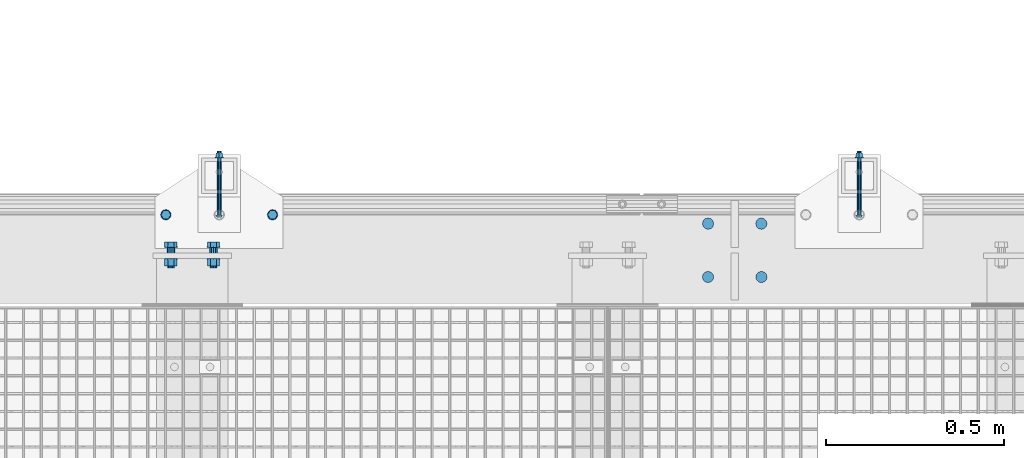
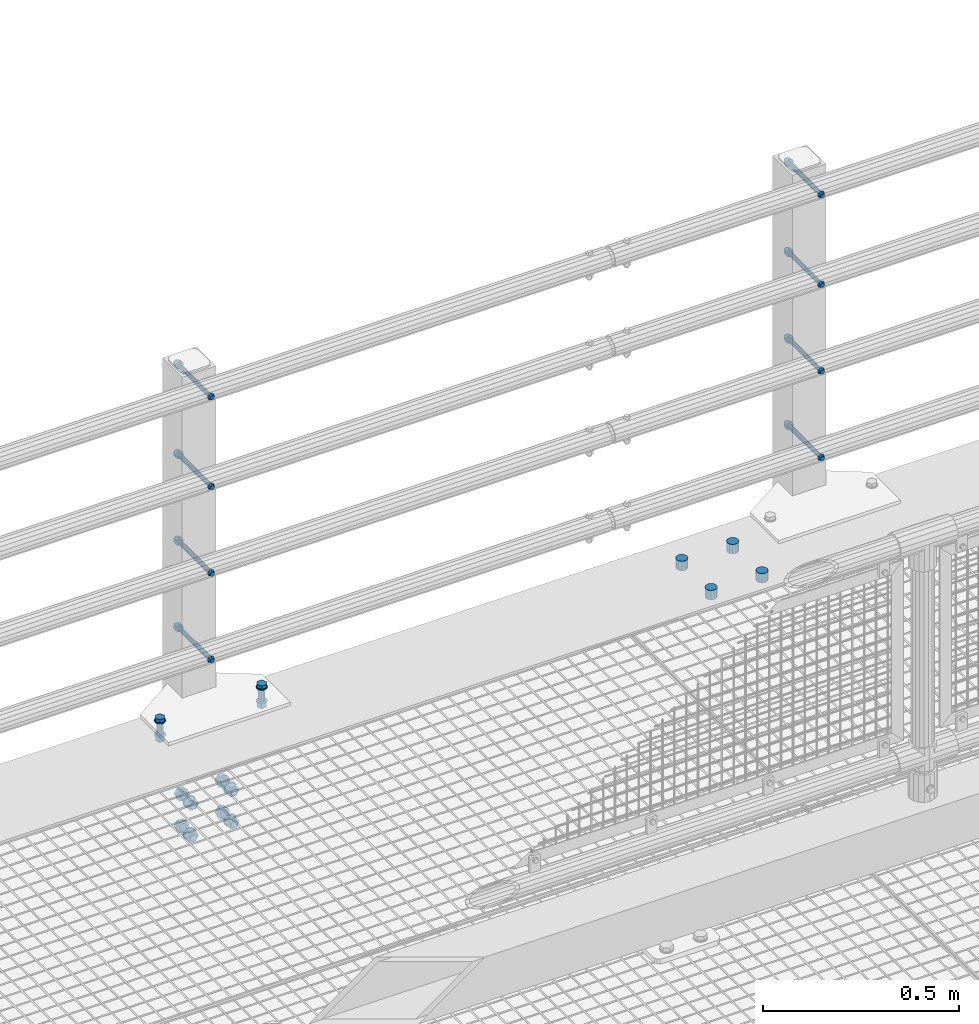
# One storey, part 39 of 1530: 11 mechanical fasteners.
"""IFC2X3 building model written with IfcOpenShell, lengths in millimetres."""

from ifc_helpers import new_model, si_unit, frame, origin_with_axes, place, context, subcontext, project, spatial, faceted_brep, source, transform, mapped, material, type_object, element, save


model = new_model("IFC2X3")

# Units and contexts
model_context = context("Model", 3, precision=1e-05, world=origin_with_axes())
body_context = subcontext(model_context, "Body", "Model", "MODEL_VIEW")
ifc_project = project(units=[si_unit("LENGTHUNIT", "METRE", prefix="MILLI"), si_unit("AREAUNIT", "SQUARE_METRE"), si_unit("VOLUMEUNIT", "CUBIC_METRE"), si_unit("MASSUNIT", "GRAM", prefix="KILO"), si_unit("TIMEUNIT", "SECOND"), si_unit("PLANEANGLEUNIT", "RADIAN"), si_unit("SOLIDANGLEUNIT", "STERADIAN"), si_unit("THERMODYNAMICTEMPERATUREUNIT", "DEGREE_CELSIUS"), si_unit("LUMINOUSINTENSITYUNIT", "LUMEN")], contexts=[model_context])

# Site, building, storey
site_placement = place(None, origin_with_axes())
site = spatial("IfcSite", under=ifc_project, at=site_placement, Name="Brattvåg", CompositionType="ELEMENT")
building_placement = place(site_placement, origin_with_axes())
building = spatial("IfcBuilding", under=site, at=building_placement, Name="Undefined", CompositionType="ELEMENT")
storey_placement = place(building_placement, origin_with_axes())
storey = spatial("IfcBuildingStorey", under=building, at=storey_placement, Name="Undefined", CompositionType="ELEMENT", Elevation=0.0)

# Mechanical fasteners
ifc_material = material(Name="8")
mechanical_fastener_type = type_object("IfcMechanicalFastenerType", Name="Bolt assembly")
shared_shape_1 = source(origin_with_axes(), body_context, "Body", "Brep", [
    faceted_brep([(16.0, 0.0, 0.0), (13.8564064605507, 0.0, 8.00000000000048), (7.99999999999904, 0.0, 13.8564064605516), (-1.65813757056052e-12, 0.0, 16.0), (-8.00000000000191, 0.0, 13.8564064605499), (-13.8564064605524, 0.0, 7.99999999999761), (-16.0, 0.0, -3.31627514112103e-12), (-13.8564064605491, 0.0, -8.00000000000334), (-7.99999999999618, 0.0, -13.8564064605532), (4.95664914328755e-12, 0.0, -16.0), (8.00000000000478, 0.0, -13.8564064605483), (13.8564064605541, 0.0, -7.99999999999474), (13.8564064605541, 30.1, -7.99999999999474), (8.00000000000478, 30.1, -13.8564064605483), (4.95664914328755e-12, 30.1, -16.0), (-7.99999999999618, 30.1, -13.8564064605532), (-13.8564064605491, 30.1, -8.00000000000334), (-16.0, 30.1, -3.31627514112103e-12), (-13.8564064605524, 30.1, 7.99999999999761), (-8.00000000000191, 30.1, 13.8564064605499), (-1.65813757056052e-12, 30.1, 16.0), (7.99999999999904, 30.1, 13.8564064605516), (13.8564064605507, 30.1, 8.00000000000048), (16.0, 30.1, 0.0)], [[[0, 1, 2, 3, 4, 5, 6, 7, 8, 9, 10, 11]], [[12, 13, 14, 15, 16, 17, 18, 19, 20, 21, 22, 23]], [[0, 23, 22, 1]], [[1, 22, 21, 2]], [[2, 21, 20, 3]], [[3, 20, 19, 4]], [[4, 19, 18, 5]], [[5, 18, 17, 6]], [[6, 17, 16, 7]], [[7, 16, 15, 8]], [[8, 15, 14, 9]], [[9, 14, 13, 10]], [[10, 13, 12, 11]], [[11, 12, 23, 0]]]),
])
mechanical_fastener_1_placement = place(storey_placement, frame((5675.0, 9000.0, 0.0), z_axis=(0.0, -1.0, 0.0), x_axis=(-1.0, 1.99999855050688e-09, 0.0)))
element("IfcMechanicalFastener", 1, at=mechanical_fastener_1_placement, inside=storey, type_object=mechanical_fastener_type, material=ifc_material, Name="Bolt assembly", NominalDiameter=30.0, NominalLength=30.0, context=body_context, shape_type="MappedRepresentation", body=[
    mapped(shared_shape_1, transform((0.0, 0.0, -75.0))),
    mapped(shared_shape_1, transform((150.0, 0.0, -75.0))),
    mapped(shared_shape_1, transform((0.0, 0.0, 75.0))),
    mapped(shared_shape_1, transform((150.0, 0.0, 75.0))),
])
shared_shape_2 = source(origin_with_axes(), body_context, "Body", "Brep", [
    faceted_brep([(6.49435320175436, -7.49984019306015, 0.0), (4.59220118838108, -7.49984019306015, 4.59220118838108), (3.97664443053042e-16, -7.49984019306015, 6.49435320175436), (-4.59220118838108, -7.49984019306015, 4.59220118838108), (-6.49435320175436, -7.49984019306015, 7.95328886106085e-16), (-4.59220118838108, -7.49984019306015, -4.59220118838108), (-1.19299332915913e-15, -7.49984019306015, -6.49435320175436), (4.59220118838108, -7.49984019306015, -4.59220118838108), (7.34846922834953, 0.000159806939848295, -7.34846922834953), (-1.90903542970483e-15, 0.000159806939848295, -10.3923048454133), (-7.34846922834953, 0.000159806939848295, -7.34846922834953), (-10.3923048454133, 0.000159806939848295, 1.27269028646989e-15), (-7.34846922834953, 0.000159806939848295, 7.34846922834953), (6.36345143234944e-16, 0.000159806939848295, 10.3923048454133), (7.34846922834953, 0.000159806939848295, 7.34846922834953), (10.3923048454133, 0.000159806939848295, 0.0), (6.0, 0.000159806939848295, 0.0), (5.19615242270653, 0.000159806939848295, 3.00000000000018), (2.99999999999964, 0.000159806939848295, 5.19615242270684), (-6.21801588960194e-13, 0.000159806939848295, 6.0), (-3.00000000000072, 0.000159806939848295, 5.19615242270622), (-5.19615242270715, 0.000159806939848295, 2.9999999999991), (-6.0, 0.000159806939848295, -1.24360317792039e-12), (-5.19615242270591, 0.000159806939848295, -3.00000000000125), (-2.99999999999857, 0.000159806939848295, -5.19615242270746), (1.85874342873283e-12, 0.000159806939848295, -6.0), (3.00000000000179, 0.000159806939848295, -5.1961524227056), (5.19615242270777, 0.000159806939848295, -2.99999999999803), (5.19615242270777, 180.00015980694, -2.99999999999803), (3.00000000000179, 180.00015980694, -5.1961524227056), (1.85874342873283e-12, 180.00015980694, -6.0), (-2.99999999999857, 180.00015980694, -5.19615242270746), (-5.19615242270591, 180.00015980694, -3.00000000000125), (-6.0, 180.00015980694, -1.24360317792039e-12), (-5.19615242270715, 180.00015980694, 2.9999999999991), (-3.00000000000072, 180.00015980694, 5.19615242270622), (-6.21801588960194e-13, 180.00015980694, 6.0), (2.99999999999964, 180.00015980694, 5.19615242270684), (5.19615242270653, 180.00015980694, 3.00000000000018), (6.0, 180.00015980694, 0.0), (12.0, 160.299998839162, 0.0), (10.3923048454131, 160.299998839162, 6.00000000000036), (5.99999999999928, 160.299998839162, 10.3923048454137), (-1.24360317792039e-12, 160.299998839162, 12.0), (-6.00000000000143, 160.299998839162, 10.3923048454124), (-10.3923048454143, 160.299998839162, 5.99999999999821), (-12.0, 160.299998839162, -2.48720635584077e-12), (-10.3923048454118, 160.299998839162, -6.00000000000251), (-5.99999999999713, 160.299998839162, -10.3923048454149), (3.71748685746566e-12, 160.299998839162, -12.0), (6.00000000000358, 160.299998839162, -10.3923048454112), (10.3923048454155, 160.299998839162, -5.99999999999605), (10.3923048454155, 162.799998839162, -5.99999999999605), (6.00000000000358, 162.799998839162, -10.3923048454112), (3.71748685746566e-12, 162.799998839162, -12.0), (-5.99999999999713, 162.799998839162, -10.3923048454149), (-10.3923048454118, 162.799998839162, -6.00000000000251), (-12.0, 162.799998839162, -2.48720635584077e-12), (-10.3923048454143, 162.799998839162, 5.99999999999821), (-6.00000000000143, 162.799998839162, 10.3923048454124), (-1.24360317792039e-12, 162.799998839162, 12.0), (5.99999999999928, 162.799998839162, 10.3923048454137), (10.3923048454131, 162.799998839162, 6.00000000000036), (12.0, 162.799998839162, 0.0), (10.9696551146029, 162.799998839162, 0.0), (5.48482755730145, 162.799998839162, 9.5), (-5.48482755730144, 162.799998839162, 9.5), (-10.9696551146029, 162.799998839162, 1.34339530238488e-15), (-5.48482755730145, 162.799998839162, -9.5), (5.48482755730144, 162.799998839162, -9.5), (5.48482755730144, 173.599999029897, -9.5), (-5.48482755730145, 173.599999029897, -9.5), (-10.9696551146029, 173.599999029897, 1.34339530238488e-15), (-5.48482755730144, 173.599999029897, 9.5), (5.48482755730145, 173.599999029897, 9.5), (10.9696551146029, 173.599999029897, 0.0)], [[[0, 1, 2, 3, 4, 5, 6, 7]], [[8, 9, 10, 11, 12, 13, 14, 15]], [[0, 15, 14, 1]], [[1, 14, 13, 2]], [[2, 13, 12, 3]], [[3, 12, 11, 4]], [[4, 11, 10, 5]], [[5, 10, 9, 6]], [[6, 9, 8, 7]], [[7, 8, 15, 0]], [[16, 17, 18, 19, 20, 21, 22, 23, 24, 25, 26, 27]], [[28, 29, 30, 31, 32, 33, 34, 35, 36, 37, 38, 39]], [[16, 39, 38, 17]], [[17, 38, 37, 18]], [[18, 37, 36, 19]], [[19, 36, 35, 20]], [[20, 35, 34, 21]], [[21, 34, 33, 22]], [[22, 33, 32, 23]], [[23, 32, 31, 24]], [[24, 31, 30, 25]], [[25, 30, 29, 26]], [[26, 29, 28, 27]], [[27, 28, 39, 16]], [[40, 41, 42, 43, 44, 45, 46, 47, 48, 49, 50, 51]], [[52, 53, 54, 55, 56, 57, 58, 59, 60, 61, 62, 63]], [[40, 63, 62, 41]], [[41, 62, 61, 42]], [[42, 61, 60, 43]], [[43, 60, 59, 44]], [[44, 59, 58, 45]], [[45, 58, 57, 46]], [[46, 57, 56, 47]], [[47, 56, 55, 48]], [[48, 55, 54, 49]], [[49, 54, 53, 50]], [[50, 53, 52, 51]], [[51, 52, 63, 40]], [[64, 65, 66, 67, 68, 69]], [[70, 71, 72, 73, 74, 75]], [[64, 75, 74, 65]], [[65, 74, 73, 66]], [[66, 73, 72, 67]], [[67, 72, 71, 68]], [[68, 71, 70, 69]], [[69, 70, 75, 64]]]),
    faceted_brep([(6.5, 0.100159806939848, 0.0), (5.62916512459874, 0.100159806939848, 3.25000000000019), (3.24999999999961, 0.100159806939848, 5.62916512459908), (-6.7361838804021e-13, 0.100159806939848, 6.5), (-3.25000000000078, 0.100159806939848, 5.6291651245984), (-5.62916512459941, 0.100159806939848, 3.24999999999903), (-6.5, 0.100159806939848, -1.34723677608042e-12), (-5.62916512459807, 0.100159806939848, -3.25000000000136), (-3.24999999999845, 0.100159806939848, -5.62916512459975), (2.01363871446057e-12, 0.100159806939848, -6.5), (3.25000000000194, 0.100159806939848, -5.62916512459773), (5.62916512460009, 0.100159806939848, -3.24999999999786), (5.62916512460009, 60.4001552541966, -3.24999999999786), (3.25000000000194, 60.4001552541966, -5.62916512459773), (2.01363871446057e-12, 60.4001552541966, -6.5), (-3.24999999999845, 60.4001552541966, -5.62916512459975), (-5.62916512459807, 60.4001552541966, -3.25000000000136), (-6.5, 60.4001552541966, -1.34723677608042e-12), (-5.62916512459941, 60.4001552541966, 3.24999999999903), (-3.25000000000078, 60.4001552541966, 5.6291651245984), (-6.7361838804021e-13, 60.4001552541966, 6.5), (3.24999999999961, 60.4001552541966, 5.62916512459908), (5.62916512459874, 60.4001552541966, 3.25000000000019), (6.5, 60.4001552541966, 0.0), (6.5, 60.1999988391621, 0.0), (5.62916512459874, 60.1999988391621, 3.25000000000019), (3.24999999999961, 60.1999988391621, 5.62916512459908), (-6.7361838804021e-13, 60.1999988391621, 6.5), (-3.25000000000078, 60.1999988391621, 5.6291651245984), (-5.62916512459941, 60.1999988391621, 3.24999999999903), (-6.5, 60.1999988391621, -1.34723677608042e-12), (-5.62916512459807, 60.1999988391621, -3.25000000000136), (-3.24999999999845, 60.1999988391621, -5.62916512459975), (2.01363871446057e-12, 60.1999988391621, -6.5), (3.25000000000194, 60.1999988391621, -5.62916512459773), (5.62916512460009, 60.1999988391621, -3.24999999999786), (5.62916512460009, 160.299998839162, -3.24999999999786), (3.25000000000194, 160.299998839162, -5.62916512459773), (2.01363871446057e-12, 160.299998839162, -6.5), (-3.24999999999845, 160.299998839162, -5.62916512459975), (-5.62916512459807, 160.299998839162, -3.25000000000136), (-6.5, 160.299998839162, -1.34723677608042e-12), (-5.62916512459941, 160.299998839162, 3.24999999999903), (-3.25000000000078, 160.299998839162, 5.6291651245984), (-6.7361838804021e-13, 160.299998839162, 6.5), (3.24999999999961, 160.299998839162, 5.62916512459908), (5.62916512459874, 160.299998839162, 3.25000000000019), (6.5, 160.299998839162, 0.0)], [[[0, 1, 2, 3, 4, 5, 6, 7, 8, 9, 10, 11]], [[12, 13, 14, 15, 16, 17, 18, 19, 20, 21, 22, 23]], [[0, 23, 22, 1]], [[1, 22, 21, 2]], [[2, 21, 20, 3]], [[3, 20, 19, 4]], [[4, 19, 18, 5]], [[5, 18, 17, 6]], [[6, 17, 16, 7]], [[7, 16, 15, 8]], [[8, 15, 14, 9]], [[9, 14, 13, 10]], [[10, 13, 12, 11]], [[11, 12, 23, 0]], [[24, 25, 26, 27, 28, 29, 30, 31, 32, 33, 34, 35]], [[36, 37, 38, 39, 40, 41, 42, 43, 44, 45, 46, 47]], [[24, 47, 46, 25]], [[25, 46, 45, 26]], [[26, 45, 44, 27]], [[27, 44, 43, 28]], [[28, 43, 42, 29]], [[29, 42, 41, 30]], [[30, 41, 40, 31]], [[31, 40, 39, 32]], [[32, 39, 38, 33]], [[33, 38, 37, 34]], [[34, 37, 36, 35]], [[35, 36, 47, 24]]]),
])
for number, where, z_axis, x_axis, name in (
    (2, (4149.9999999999, 9099.69972268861, 149.550000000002), (1.0, 0.0, 0.0), (0.0, 0.0, -1.0), "Bolt assembly"),
    (3, (4149.9999999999, 9099.69972268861, 419.550000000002), (1.0, 0.0, 0.0), (0.0, 0.0, -1.0), "Bolt assembly"),
    (4, (4149.9999999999, 9099.69972268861, 689.550000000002), (1.0, 0.0, 0.0), (0.0, 0.0, -1.0), "Bolt assembly"),
    (5, (4149.9999999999, 9099.69972268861, 969.550000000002), (1.0, 0.0, 0.0), (0.0, 0.0, -1.0), "Bolt assembly"),
    (6, (5949.9999999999, 9099.69972268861, 149.550000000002), (1.0, 0.0, 0.0), (0.0, 0.0, -1.0), "Bolt assembly"),
    (7, (5949.9999999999, 9099.69972268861, 419.550000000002), (1.0, 0.0, 0.0), (0.0, 0.0, -1.0), "Bolt assembly"),
    (8, (5949.9999999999, 9099.69972268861, 689.550000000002), (1.0, 0.0, 0.0), (0.0, 0.0, -1.0), "Bolt assembly"),
    (9, (5949.9999999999, 9099.69972268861, 969.550000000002), (1.0, 0.0, 0.0), (0.0, 0.0, -1.0), "Bolt assembly"),
):
    element("IfcMechanicalFastener", number, at=place(storey_placement, frame(where, z_axis=z_axis, x_axis=x_axis)), inside=storey, type_object=mechanical_fastener_type, material=ifc_material, Name=name, NominalDiameter=12.0, NominalLength=180.0, context=body_context, shape_type="MappedRepresentation", body=[
        mapped(shared_shape_2, transform((0.0, 0.0, 0.0))),
    ])
shared_shape_3 = source(origin_with_axes(), body_context, "Body", "Brep", [
    faceted_brep([(13.856406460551, -13.0, 0.0), (6.92820323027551, -13.0, 12.0), (-6.92820323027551, -13.0, 12.0), (-13.856406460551, -13.0, 1.69692038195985e-15), (-6.92820323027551, -13.0, -12.0), (6.9282032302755, -13.0, -12.0), (6.9282032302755, -3.0, -12.0), (-6.92820323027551, -3.0, -12.0), (-13.856406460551, -3.0, 1.69692038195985e-15), (-6.92820323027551, -3.0, 12.0), (6.92820323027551, -3.0, 12.0), (13.856406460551, -3.0, 0.0), (8.0, -3.0, 0.0), (6.92820323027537, -3.0, 4.00000000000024), (3.99999999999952, -3.0, 6.92820323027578), (-8.29068785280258e-13, -3.0, 8.0), (-4.00000000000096, -3.0, 6.92820323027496), (-6.9282032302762, -3.0, 3.99999999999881), (-8.0, -3.0, -1.65813757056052e-12), (-6.92820323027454, -3.0, -4.00000000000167), (-3.99999999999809, -3.0, -6.92820323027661), (2.47832457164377e-12, -3.0, -8.0), (4.00000000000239, -3.0, -6.92820323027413), (6.92820323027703, -3.0, -3.99999999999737), (6.92820323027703, 62.0000000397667, -3.99999999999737), (4.00000000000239, 62.0000000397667, -6.92820323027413), (2.47832457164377e-12, 62.0000000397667, -8.0), (-3.99999999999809, 62.0000000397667, -6.92820323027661), (-6.92820323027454, 62.0000000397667, -4.00000000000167), (-8.0, 62.0000000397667, -1.65813757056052e-12), (-6.9282032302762, 62.0000000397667, 3.99999999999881), (-4.00000000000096, 62.0000000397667, 6.92820323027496), (-8.29068785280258e-13, 62.0000000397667, 8.0), (3.99999999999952, 62.0000000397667, 6.92820323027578), (6.92820323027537, 62.0000000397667, 4.00000000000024), (8.0, 62.0000000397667, 0.0), (15.0, -3.0, 0.0), (12.9903810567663, -3.0, 7.50000000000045), (7.4999999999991, -3.0, 12.9903810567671), (-1.55450397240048e-12, -3.0, 15.0), (-7.50000000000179, -3.0, 12.9903810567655), (-12.9903810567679, -3.0, 7.49999999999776), (-15.0, -3.0, -3.10900794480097e-12), (-12.9903810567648, -3.0, -7.50000000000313), (-7.49999999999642, -3.0, -12.9903810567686), (4.64685857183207e-12, -3.0, -15.0), (7.50000000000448, -3.0, -12.990381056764), (12.9903810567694, -3.0, -7.49999999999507), (12.9903810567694, 0.0, -7.49999999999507), (7.50000000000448, 0.0, -12.990381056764), (0.0, 0.0, -15.0), (-7.49999999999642, 0.0, -12.9903810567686), (-12.9903810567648, 0.0, -7.50000000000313), (-15.0, 0.0, -3.10900794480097e-12), (-12.9903810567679, 0.0, 7.49999999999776), (-7.50000000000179, 0.0, 12.9903810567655), (0.0, 0.0, 15.0), (7.4999999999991, 0.0, 12.9903810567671), (12.9903810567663, 0.0, 7.50000000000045), (15.0, 0.0, 0.0), (15.0, 39.9997390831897, 0.0), (12.9903810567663, 39.9997390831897, 7.50000000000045), (7.4999999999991, 39.9997390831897, 12.9903810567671), (-1.55450397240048e-12, 39.9997390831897, 15.0), (-7.50000000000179, 39.9997390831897, 12.9903810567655), (-12.9903810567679, 39.9997390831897, 7.49999999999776), (-15.0, 39.9997390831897, -3.10900794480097e-12), (-12.9903810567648, 39.9997390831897, -7.50000000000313), (-7.49999999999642, 39.9997390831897, -12.9903810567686), (4.64685857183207e-12, 39.9997390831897, -15.0), (7.50000000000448, 39.9997390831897, -12.990381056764), (12.9903810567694, 39.9997390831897, -7.49999999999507), (12.9903810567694, 42.9997390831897, -7.49999999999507), (7.50000000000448, 42.9997390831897, -12.990381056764), (4.64685857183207e-12, 42.9997390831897, -15.0), (-7.49999999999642, 42.9997390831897, -12.9903810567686), (-12.9903810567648, 42.9997390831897, -7.50000000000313), (-15.0, 42.9997390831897, -3.10900794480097e-12), (-12.9903810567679, 42.9997390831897, 7.49999999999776), (-7.50000000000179, 42.9997390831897, 12.9903810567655), (-1.55450397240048e-12, 42.9997390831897, 15.0), (7.4999999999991, 42.9997390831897, 12.9903810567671), (12.9903810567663, 42.9997390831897, 7.50000000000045), (15.0, 42.9997390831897, 0.0), (13.856406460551, 42.9997390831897, 0.0), (6.92820323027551, 42.9997390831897, 12.0), (-6.92820323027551, 42.9997390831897, 12.0), (-13.856406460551, 42.9997390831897, 1.69692038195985e-15), (-6.92820323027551, 42.9997390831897, -12.0), (6.9282032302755, 42.9997390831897, -12.0), (6.9282032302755, 57.7997392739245, -12.0), (-6.92820323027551, 57.7997392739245, -12.0), (-13.856406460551, 57.7997392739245, 1.69692038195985e-15), (-6.92820323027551, 57.7997392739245, 12.0), (6.92820323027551, 57.7997392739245, 12.0), (13.856406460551, 57.7997392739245, 0.0)], [[[0, 1, 2, 3, 4, 5]], [[6, 7, 8, 9, 10, 11]], [[0, 11, 10, 1]], [[1, 10, 9, 2]], [[2, 9, 8, 3]], [[3, 8, 7, 4]], [[4, 7, 6, 5]], [[5, 6, 11, 0]], [[12, 13, 14, 15, 16, 17, 18, 19, 20, 21, 22, 23]], [[24, 25, 26, 27, 28, 29, 30, 31, 32, 33, 34, 35]], [[12, 35, 34, 13]], [[13, 34, 33, 14]], [[14, 33, 32, 15]], [[15, 32, 31, 16]], [[16, 31, 30, 17]], [[17, 30, 29, 18]], [[18, 29, 28, 19]], [[19, 28, 27, 20]], [[20, 27, 26, 21]], [[21, 26, 25, 22]], [[22, 25, 24, 23]], [[23, 24, 35, 12]], [[36, 37, 38, 39, 40, 41, 42, 43, 44, 45, 46, 47]], [[48, 49, 50, 51, 52, 53, 54, 55, 56, 57, 58, 59]], [[36, 59, 58, 37]], [[37, 58, 57, 38]], [[38, 57, 56, 39]], [[39, 56, 55, 40]], [[40, 55, 54, 41]], [[41, 54, 53, 42]], [[42, 53, 52, 43]], [[43, 52, 51, 44]], [[44, 51, 50, 45]], [[45, 50, 49, 46]], [[46, 49, 48, 47]], [[47, 48, 59, 36]], [[60, 61, 62, 63, 64, 65, 66, 67, 68, 69, 70, 71]], [[72, 73, 74, 75, 76, 77, 78, 79, 80, 81, 82, 83]], [[60, 83, 82, 61]], [[61, 82, 81, 62]], [[62, 81, 80, 63]], [[63, 80, 79, 64]], [[64, 79, 78, 65]], [[65, 78, 77, 66]], [[66, 77, 76, 67]], [[67, 76, 75, 68]], [[68, 75, 74, 69]], [[69, 74, 73, 70]], [[70, 73, 72, 71]], [[71, 72, 83, 60]], [[84, 85, 86, 87, 88, 89]], [[90, 91, 92, 93, 94, 95]], [[84, 95, 94, 85]], [[85, 94, 93, 86]], [[86, 93, 92, 87]], [[87, 92, 91, 88]], [[88, 91, 90, 89]], [[89, 90, 95, 84]]]),
    faceted_brep([(9.0, 0.1, 0.0), (7.79422863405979, 0.1, 4.50000000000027), (4.49999999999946, 0.1, 7.79422863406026), (-9.3270238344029e-13, 0.1, 9.0), (-4.50000000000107, 0.1, 7.79422863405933), (-7.79422863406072, 0.1, 4.49999999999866), (-9.0, 0.1, -1.86540476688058e-12), (-7.79422863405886, 0.1, -4.50000000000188), (-4.49999999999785, 0.1, -7.79422863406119), (2.78811514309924e-12, 0.1, -9.0), (4.50000000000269, 0.1, -7.7942286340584), (7.79422863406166, 0.1, -4.49999999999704), (7.79422863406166, 10.1, -4.49999999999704), (4.50000000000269, 10.1, -7.7942286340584), (2.78811514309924e-12, 10.1, -9.0), (-4.49999999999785, 10.1, -7.79422863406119), (-7.79422863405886, 10.1, -4.50000000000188), (-9.0, 10.1, -1.86540476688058e-12), (-7.79422863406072, 10.1, 4.49999999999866), (-4.50000000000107, 10.1, 7.79422863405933), (-9.3270238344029e-13, 10.1, 9.0), (4.49999999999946, 10.1, 7.79422863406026), (7.79422863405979, 10.1, 4.50000000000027), (9.0, 10.1, 0.0), (9.0, 9.8997390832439, 0.0), (7.79422863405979, 9.8997390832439, 4.50000000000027), (4.49999999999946, 9.8997390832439, 7.79422863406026), (-9.3270238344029e-13, 9.8997390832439, 9.0), (-4.50000000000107, 9.8997390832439, 7.79422863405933), (-7.79422863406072, 9.8997390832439, 4.49999999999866), (-9.0, 9.8997390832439, -1.86540476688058e-12), (-7.79422863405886, 9.8997390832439, -4.50000000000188), (-4.49999999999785, 9.8997390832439, -7.79422863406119), (2.78811514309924e-12, 9.8997390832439, -9.0), (4.50000000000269, 9.8997390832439, -7.7942286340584), (7.79422863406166, 9.8997390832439, -4.49999999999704), (7.79422863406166, 39.9997390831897, -4.49999999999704), (4.50000000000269, 39.9997390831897, -7.7942286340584), (2.78811514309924e-12, 39.9997390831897, -9.0), (-4.49999999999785, 39.9997390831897, -7.79422863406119), (-7.79422863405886, 39.9997390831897, -4.50000000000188), (-9.0, 39.9997390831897, -1.86540476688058e-12), (-7.79422863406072, 39.9997390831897, 4.49999999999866), (-4.50000000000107, 39.9997390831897, 7.79422863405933), (-9.3270238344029e-13, 39.9997390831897, 9.0), (4.49999999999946, 39.9997390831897, 7.79422863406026), (7.79422863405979, 39.9997390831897, 4.50000000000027), (9.0, 39.9997390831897, 0.0)], [[[0, 1, 2, 3, 4, 5, 6, 7, 8, 9, 10, 11]], [[12, 13, 14, 15, 16, 17, 18, 19, 20, 21, 22, 23]], [[0, 23, 22, 1]], [[1, 22, 21, 2]], [[2, 21, 20, 3]], [[3, 20, 19, 4]], [[4, 19, 18, 5]], [[5, 18, 17, 6]], [[6, 17, 16, 7]], [[7, 16, 15, 8]], [[8, 15, 14, 9]], [[9, 14, 13, 10]], [[10, 13, 12, 11]], [[11, 12, 23, 0]], [[24, 25, 26, 27, 28, 29, 30, 31, 32, 33, 34, 35]], [[36, 37, 38, 39, 40, 41, 42, 43, 44, 45, 46, 47]], [[24, 47, 46, 25]], [[25, 46, 45, 26]], [[26, 45, 44, 27]], [[27, 44, 43, 28]], [[28, 43, 42, 29]], [[29, 42, 41, 30]], [[30, 41, 40, 31]], [[31, 40, 39, 32]], [[32, 39, 38, 33]], [[33, 38, 37, 34]], [[34, 37, 36, 35]], [[35, 36, 47, 24]]]),
])
mechanical_fastener_2_placement = place(storey_placement, frame((4000.00080864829, 9099.99960715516, 9.99973908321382), z_axis=(0.0, 1.0, 0.0), x_axis=(1.0, 0.0, 0.0)))
element("IfcMechanicalFastener", 10, at=mechanical_fastener_2_placement, inside=storey, type_object=mechanical_fastener_type, material=ifc_material, Name="Bolt assembly", NominalDiameter=16.0, NominalLength=65.0, context=body_context, shape_type="MappedRepresentation", body=[
    mapped(shared_shape_3, transform((0.0, 0.0, 0.0))),
    mapped(shared_shape_3, transform((300.0, 0.0, 0.0))),
])
shared_shape_4 = source(origin_with_axes(), body_context, "Body", "Brep", [
    faceted_brep([(17.3205080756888, -31.4985046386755, 0.0), (8.66025403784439, -31.4985046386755, 15.0), (-8.66025403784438, -31.4985046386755, 15.0), (-17.3205080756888, -31.4985046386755, 2.12115047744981e-15), (-8.66025403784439, -31.4985046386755, -15.0), (8.66025403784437, -31.4985046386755, -15.0), (8.66025403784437, -18.9985046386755, -15.0), (-8.66025403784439, -18.9985046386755, -15.0), (-17.3205080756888, -18.9985046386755, 2.12115047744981e-15), (-8.66025403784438, -18.9985046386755, 15.0), (8.66025403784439, -18.9985046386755, 15.0), (17.3205080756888, -18.9985046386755, 0.0), (10.0, -18.9985046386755, 0.0), (8.66025403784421, -18.9985046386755, 5.0000000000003), (4.9999999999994, -18.9985046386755, 8.66025403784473), (-1.03633598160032e-12, -18.9985046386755, 10.0), (-5.00000000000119, -18.9985046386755, 8.6602540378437), (-8.66025403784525, -18.9985046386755, 4.99999999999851), (-10.0, -18.9985046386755, -2.07267196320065e-12), (-8.66025403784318, -18.9985046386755, -5.00000000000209), (-4.99999999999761, -18.9985046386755, -8.66025403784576), (3.09790571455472e-12, -18.9985046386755, -10.0), (5.00000000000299, -18.9985046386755, -8.66025403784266), (8.66025403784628, -18.9985046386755, -4.99999999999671), (8.66025403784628, 41.0014953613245, -4.99999999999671), (5.00000000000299, 41.0014953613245, -8.66025403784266), (3.09790571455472e-12, 41.0014953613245, -10.0), (-4.99999999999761, 41.0014953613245, -8.66025403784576), (-8.66025403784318, 41.0014953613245, -5.00000000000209), (-10.0, 41.0014953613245, -2.07267196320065e-12), (-8.66025403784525, 41.0014953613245, 4.99999999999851), (-5.00000000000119, 41.0014953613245, 8.6602540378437), (-1.03633598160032e-12, 41.0014953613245, 10.0), (4.9999999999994, 41.0014953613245, 8.66025403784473), (8.66025403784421, 41.0014953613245, 5.0000000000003), (10.0, 41.0014953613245, 0.0), (18.5, -18.9985046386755, 0.0), (16.0214699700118, -18.9985046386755, 9.25000000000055), (9.2499999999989, -18.9985046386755, 16.0214699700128), (-1.9172215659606e-12, -18.9985046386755, 18.5), (-9.25000000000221, -18.9985046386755, 16.0214699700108), (-16.0214699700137, -18.9985046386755, 9.24999999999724), (-18.5, -18.9985046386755, -3.83444313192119e-12), (-16.0214699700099, -18.9985046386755, -9.25000000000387), (-9.24999999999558, -18.9985046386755, -16.0214699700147), (5.73112557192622e-12, -18.9985046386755, -18.5), (9.25000000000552, -18.9985046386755, -16.0214699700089), (16.0214699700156, -18.9985046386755, -9.24999999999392), (16.0214699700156, -15.9985046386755, -9.24999999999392), (9.25000000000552, -15.9985046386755, -16.0214699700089), (5.73112557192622e-12, -15.9985046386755, -18.5), (-9.24999999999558, -15.9985046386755, -16.0214699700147), (-16.0214699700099, -15.9985046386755, -9.25000000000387), (-18.5, -15.9985046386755, -3.83444313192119e-12), (-16.0214699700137, -15.9985046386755, 9.24999999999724), (-9.25000000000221, -15.9985046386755, 16.0214699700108), (-1.9172215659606e-12, -15.9985046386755, 18.5), (9.2499999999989, -15.9985046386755, 16.0214699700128), (16.0214699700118, -15.9985046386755, 9.25000000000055), (18.5, -15.9985046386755, 0.0), (18.5, 15.0000000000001, 0.0), (16.0214699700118, 15.0000000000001, 9.25000000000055), (9.2499999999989, 15.0000000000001, 16.0214699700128), (-1.9172215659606e-12, 15.0000000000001, 18.5), (-9.25000000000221, 15.0000000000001, 16.0214699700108), (-16.0214699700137, 15.0000000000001, 9.24999999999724), (-18.5, 15.0000000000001, -3.83444313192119e-12), (-16.0214699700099, 15.0000000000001, -9.25000000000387), (-9.24999999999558, 15.0000000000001, -16.0214699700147), (5.73112557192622e-12, 15.0000000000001, -18.5), (9.25000000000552, 15.0000000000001, -16.0214699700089), (16.0214699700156, 15.0000000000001, -9.24999999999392), (16.0214699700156, 18.0000000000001, -9.24999999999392), (9.25000000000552, 18.0000000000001, -16.0214699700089), (5.73112557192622e-12, 18.0000000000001, -18.5), (-9.24999999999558, 18.0000000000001, -16.0214699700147), (-16.0214699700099, 18.0000000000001, -9.25000000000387), (-18.5, 18.0000000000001, -3.83444313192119e-12), (-16.0214699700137, 18.0000000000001, 9.24999999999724), (-9.25000000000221, 18.0000000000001, 16.0214699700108), (-1.9172215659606e-12, 18.0000000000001, 18.5), (9.2499999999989, 18.0000000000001, 16.0214699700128), (16.0214699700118, 18.0000000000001, 9.25000000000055), (18.5, 18.0000000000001, 0.0), (17.3205080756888, 18.0000000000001, 0.0), (8.66025403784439, 18.0000000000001, 15.0), (-8.66025403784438, 18.0000000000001, 15.0), (-17.3205080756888, 18.0000000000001, 2.12115047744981e-15), (-8.66025403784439, 18.0000000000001, -15.0), (8.66025403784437, 18.0000000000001, -15.0), (8.66025403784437, 36.0000000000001, -15.0), (-8.66025403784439, 36.0000000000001, -15.0), (-17.3205080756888, 36.0000000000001, 2.12115047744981e-15), (-8.66025403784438, 36.0000000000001, 15.0), (8.66025403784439, 36.0000000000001, 15.0), (17.3205080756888, 36.0000000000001, 0.0)], [[[0, 1, 2, 3, 4, 5]], [[6, 7, 8, 9, 10, 11]], [[0, 11, 10, 1]], [[1, 10, 9, 2]], [[2, 9, 8, 3]], [[3, 8, 7, 4]], [[4, 7, 6, 5]], [[5, 6, 11, 0]], [[12, 13, 14, 15, 16, 17, 18, 19, 20, 21, 22, 23]], [[24, 25, 26, 27, 28, 29, 30, 31, 32, 33, 34, 35]], [[12, 35, 34, 13]], [[13, 34, 33, 14]], [[14, 33, 32, 15]], [[15, 32, 31, 16]], [[16, 31, 30, 17]], [[17, 30, 29, 18]], [[18, 29, 28, 19]], [[19, 28, 27, 20]], [[20, 27, 26, 21]], [[21, 26, 25, 22]], [[22, 25, 24, 23]], [[23, 24, 35, 12]], [[36, 37, 38, 39, 40, 41, 42, 43, 44, 45, 46, 47]], [[48, 49, 50, 51, 52, 53, 54, 55, 56, 57, 58, 59]], [[36, 59, 58, 37]], [[37, 58, 57, 38]], [[38, 57, 56, 39]], [[39, 56, 55, 40]], [[40, 55, 54, 41]], [[41, 54, 53, 42]], [[42, 53, 52, 43]], [[43, 52, 51, 44]], [[44, 51, 50, 45]], [[45, 50, 49, 46]], [[46, 49, 48, 47]], [[47, 48, 59, 36]], [[60, 61, 62, 63, 64, 65, 66, 67, 68, 69, 70, 71]], [[72, 73, 74, 75, 76, 77, 78, 79, 80, 81, 82, 83]], [[60, 83, 82, 61]], [[61, 82, 81, 62]], [[62, 81, 80, 63]], [[63, 80, 79, 64]], [[64, 79, 78, 65]], [[65, 78, 77, 66]], [[66, 77, 76, 67]], [[67, 76, 75, 68]], [[68, 75, 74, 69]], [[69, 74, 73, 70]], [[70, 73, 72, 71]], [[71, 72, 83, 60]], [[84, 85, 86, 87, 88, 89]], [[90, 91, 92, 93, 94, 95]], [[84, 95, 94, 85]], [[85, 94, 93, 86]], [[86, 93, 92, 87]], [[87, 92, 91, 88]], [[88, 91, 90, 89]], [[89, 90, 95, 84]]]),
    faceted_brep([(11.0, -15.8985046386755, 0.0), (9.52627944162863, -15.8985046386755, 5.50000000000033), (5.49999999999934, -15.8985046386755, 9.5262794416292), (-1.13996957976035e-12, -15.8985046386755, 11.0), (-5.50000000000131, -15.8985046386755, 9.52627944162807), (-9.52627944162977, -15.8985046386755, 5.49999999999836), (-11.0, -15.8985046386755, -2.27993915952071e-12), (-9.5262794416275, -15.8985046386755, -5.5000000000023), (-5.49999999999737, -15.8985046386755, -9.52627944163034), (3.40769628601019e-12, -15.8985046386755, -11.0), (5.50000000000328, -15.8985046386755, -9.52627944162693), (9.52627944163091, -15.8985046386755, -5.49999999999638), (9.52627944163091, 0.101495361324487, -5.49999999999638), (5.50000000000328, 0.101495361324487, -9.52627944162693), (3.40769628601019e-12, 0.101495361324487, -11.0), (-5.49999999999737, 0.101495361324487, -9.52627944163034), (-9.5262794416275, 0.101495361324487, -5.5000000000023), (-11.0, 0.101495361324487, -2.27993915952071e-12), (-9.52627944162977, 0.101495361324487, 5.49999999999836), (-5.50000000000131, 0.101495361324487, 9.52627944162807), (-1.13996957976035e-12, 0.101495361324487, 11.0), (5.49999999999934, 0.101495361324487, 9.5262794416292), (9.52627944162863, 0.101495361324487, 5.50000000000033), (11.0, 0.101495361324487, 0.0), (11.0, -0.1, 0.0), (9.52627944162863, -0.1, 5.50000000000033), (5.49999999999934, -0.1, 9.5262794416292), (-1.13996957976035e-12, -0.1, 11.0), (-5.50000000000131, -0.1, 9.52627944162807), (-9.52627944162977, -0.1, 5.49999999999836), (-11.0, -0.1, -2.27993915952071e-12), (-9.5262794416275, -0.1, -5.5000000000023), (-5.49999999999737, -0.1, -9.52627944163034), (3.40769628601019e-12, -0.1, -11.0), (5.50000000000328, -0.1, -9.52627944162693), (9.52627944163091, -0.1, -5.49999999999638), (9.52627944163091, 15.0000000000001, -5.49999999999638), (5.50000000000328, 15.0000000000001, -9.52627944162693), (3.40769628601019e-12, 15.0000000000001, -11.0), (-5.49999999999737, 15.0000000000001, -9.52627944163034), (-9.5262794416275, 15.0000000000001, -5.5000000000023), (-11.0, 15.0000000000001, -2.27993915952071e-12), (-9.52627944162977, 15.0000000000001, 5.49999999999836), (-5.50000000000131, 15.0000000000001, 9.52627944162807), (-1.13996957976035e-12, 15.0000000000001, 11.0), (5.49999999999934, 15.0000000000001, 9.5262794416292), (9.52627944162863, 15.0000000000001, 5.50000000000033), (11.0, 15.0000000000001, 0.0)], [[[0, 1, 2, 3, 4, 5, 6, 7, 8, 9, 10, 11]], [[12, 13, 14, 15, 16, 17, 18, 19, 20, 21, 22, 23]], [[0, 23, 22, 1]], [[1, 22, 21, 2]], [[2, 21, 20, 3]], [[3, 20, 19, 4]], [[4, 19, 18, 5]], [[5, 18, 17, 6]], [[6, 17, 16, 7]], [[7, 16, 15, 8]], [[8, 15, 14, 9]], [[9, 14, 13, 10]], [[10, 13, 12, 11]], [[11, 12, 23, 0]], [[24, 25, 26, 27, 28, 29, 30, 31, 32, 33, 34, 35]], [[36, 37, 38, 39, 40, 41, 42, 43, 44, 45, 46, 47]], [[24, 47, 46, 25]], [[25, 46, 45, 26]], [[26, 45, 44, 27]], [[27, 44, 43, 28]], [[28, 43, 42, 29]], [[29, 42, 41, 30]], [[30, 41, 40, 31]], [[31, 40, 39, 32]], [[32, 39, 38, 33]], [[33, 38, 37, 34]], [[34, 37, 36, 35]], [[35, 36, 47, 24]]]),
])
mechanical_fastener_3_placement = place(storey_placement, frame((4134.00196838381, 8992.00149536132, -219.998836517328), z_axis=(0.0, 0.0, 1.0), x_axis=(-1.0, 1.99999855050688e-09, 0.0)))
element("IfcMechanicalFastener", 11, at=mechanical_fastener_3_placement, inside=storey, type_object=mechanical_fastener_type, material=ifc_material, Name="Bolt assembly", NominalDiameter=20.0, NominalLength=60.0, context=body_context, shape_type="MappedRepresentation", body=[
    mapped(shared_shape_4, transform((0.0, 0.0, -50.0))),
    mapped(shared_shape_4, transform((120.0, 0.0, -50.0))),
    mapped(shared_shape_4, transform((0.0, 0.0, 50.0))),
    mapped(shared_shape_4, transform((120.0, 0.0, 50.0))),
])

save(model, "model.ifc")
